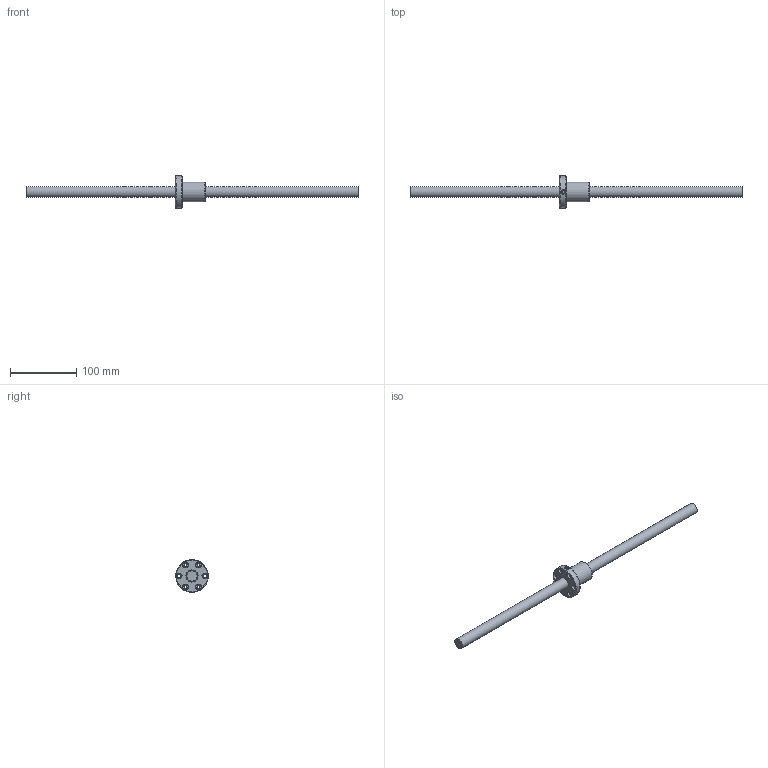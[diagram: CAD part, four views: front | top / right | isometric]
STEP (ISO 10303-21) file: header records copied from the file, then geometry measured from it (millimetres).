
FILE_DESCRIPTION (( 'STEP AP203' ), '1' );
FILE_NAME ('SFNI01605N-4.step', '2024-05-16T01:21:13', ( '' ), ( '' ), 'SwSTEP 2.0', 'SolidWorks 2022', '' );
FILE_SCHEMA (( 'CONFIG_CONTROL_DESIGN' ));
Length unit declared in the file: millimetre
Products named in the file (1): SFNI01605N-4
Bounding box: 500 x 48.99 x 49 mm (x, y, z)
Volume: 130270.8 mm3; surface area: 37162.3 mm2
Topology: 2 solids, 2 shells, 56 faces, 141 edges, 89 vertices
Faces by surface type: cylinder 24, cone 13, plane 12, bspline 4, torus 3
Full cylindrical faces by diameter (mm): 4 x1, 4.5 x6, 5 x6, 8 x6, 16 x1, 18.1 x1, 30 x1, 49 x1
Entity records: 3010 total; most frequent: CARTESIAN_POINT 1957, DIRECTION 206, ORIENTED_EDGE 150, AXIS2_PLACEMENT_3D 101, EDGE_LOOP 101, EDGE_CURVE 75, FACE_OUTER_BOUND 72, VERTEX_POINT 64
